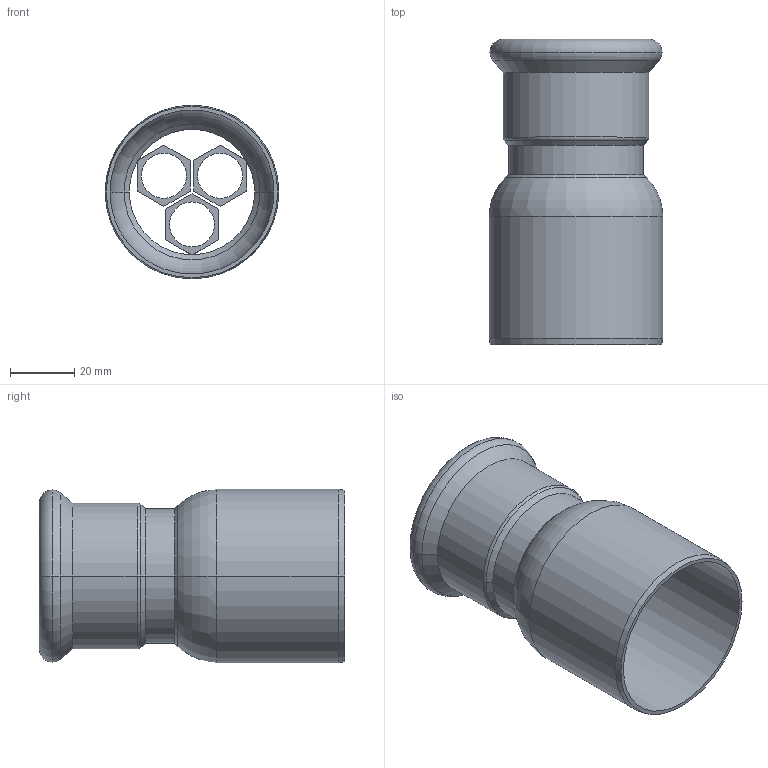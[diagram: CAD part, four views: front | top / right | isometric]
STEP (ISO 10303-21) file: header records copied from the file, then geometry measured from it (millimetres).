
FILE_DESCRIPTION(('OneSpaceDesigner STEP Export'),'2;1');
FILE_NAME('R2707 42x54.stp','2010-06-09T13:43:35',(''),(''),'OneSpace Designer STEP processor for AP214 (Solid Model)','OneSpace Modeling 15.00A 14-Mar-2007 (C) CoCreate Software GmbH','');
FILE_SCHEMA(('AUTOMOTIVE_DESIGN { 1 0 10303 214 1 1 1 1 }'));
Length unit declared in the file: millimetre
Products named in the file (2): R2707_42x54
Assembly tree (1 placements, depth 2):
  R2707_42x54
    R2707_42x54
Bounding box: 54 x 95 x 54 mm (x, y, z)
Volume: 27376.9 mm3; surface area: 31820 mm2
Topology: 1 solids, 1 shells, 74 faces, 176 edges, 109 vertices
Faces by surface type: plane 31, cylinder 23, cone 10, torus 10
Entity records: 1888 total; most frequent: ORIENTED_EDGE 352, CARTESIAN_POINT 299, DIRECTION 281, EDGE_CURVE 176, VERTEX_POINT 109, VECTOR 99, LINE 99, AXIS2_PLACEMENT_3D 91
